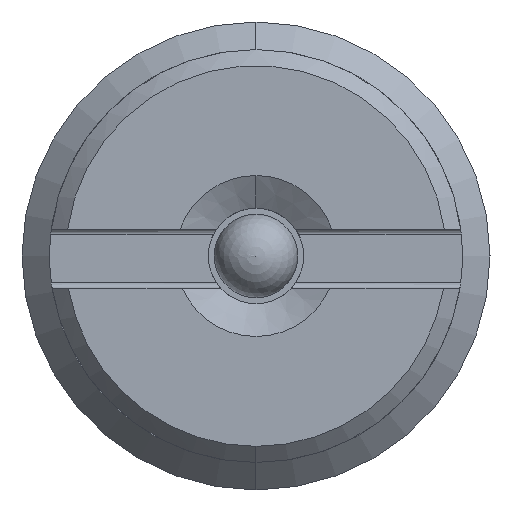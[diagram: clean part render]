
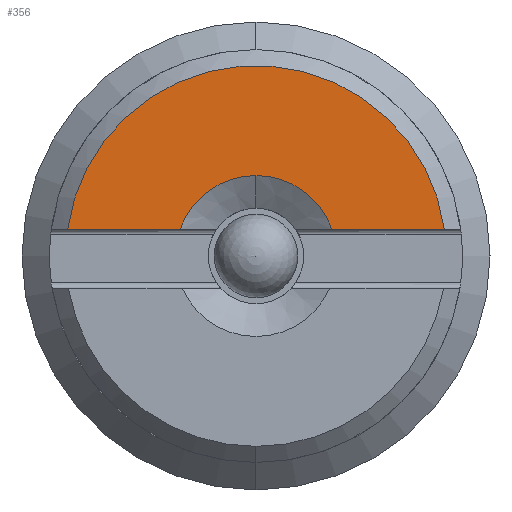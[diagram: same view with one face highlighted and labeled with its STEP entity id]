
A CAD part, left-side view. The second image highlights one B-rep face of the part: STEP entity #356.
In plain terms, the highlighted planar face has unit normal (-1, 0, 0).
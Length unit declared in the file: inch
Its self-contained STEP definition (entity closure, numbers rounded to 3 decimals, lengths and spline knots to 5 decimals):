
#3 = VERTEX_POINT ( 'NONE', #431 ) ;
#16 = EDGE_CURVE ( 'NONE', #60, #3, #402, .T. ) ;
#60 = VERTEX_POINT ( 'NONE', #815 ) ;
#72 = VERTEX_POINT ( 'NONE', #737 ) ;
#110 = ORIENTED_EDGE ( 'NONE', *, *, #16, .F. ) ;
#111 = ORIENTED_EDGE ( 'NONE', *, *, #177, .F. ) ;
#113 = EDGE_LOOP ( 'NONE', ( #359, #360, #357, #110, #111 ) ) ;
#175 = VERTEX_POINT ( 'NONE', #1090 ) ;
#177 = EDGE_CURVE ( 'NONE', #175, #60, #1084, .T. ) ;
#245 = EDGE_CURVE ( 'NONE', #384, #175, #1365, .T. ) ;
#356 = ADVANCED_FACE ( 'NONE', ( #2256 ), #2191, .F. ) ;
#357 = ORIENTED_EDGE ( 'NONE', *, *, #358, .F. ) ;
#358 = EDGE_CURVE ( 'NONE', #3, #72, #2316, .T. ) ;
#359 = ORIENTED_EDGE ( 'NONE', *, *, #245, .F. ) ;
#360 = ORIENTED_EDGE ( 'NONE', *, *, #383, .T. ) ;
#383 = EDGE_CURVE ( 'NONE', #384, #72, #2341, .T. ) ;
#384 = VERTEX_POINT ( 'NONE', #2336 ) ;
#398 = DIRECTION ( 'NONE',  ( 0., 0., 1. ) ) ;
#399 = DIRECTION ( 'NONE',  ( -1., 0., 0. ) ) ;
#400 = CARTESIAN_POINT ( 'NONE',  ( -0.897, 0., 0. ) ) ;
#401 = AXIS2_PLACEMENT_3D ( 'NONE', #400, #399, #398 ) ;
#402 = CIRCLE ( 'NONE', #401, 0.075 ) ;
#431 = CARTESIAN_POINT ( 'NONE',  ( -0.897, 0.07071, 0.025 ) ) ;
#737 = CARTESIAN_POINT ( 'NONE',  ( -0.897, 0.17573, 0.025 ) ) ;
#815 = CARTESIAN_POINT ( 'NONE',  ( -0.897, 0., 0.075 ) ) ;
#1081 = DIRECTION ( 'NONE',  ( 0., 0., 1. ) ) ;
#1082 = DIRECTION ( 'NONE',  ( -1., 0., 0. ) ) ;
#1083 = AXIS2_PLACEMENT_3D ( 'NONE', #1220, #1082, #1081 ) ;
#1084 = CIRCLE ( 'NONE', #1083, 0.075 ) ;
#1090 = CARTESIAN_POINT ( 'NONE',  ( -0.897, -0.07071, 0.025 ) ) ;
#1220 = CARTESIAN_POINT ( 'NONE',  ( -0.897, 0., 0. ) ) ;
#1362 = DIRECTION ( 'NONE',  ( 0., 1., 0. ) ) ;
#1363 = VECTOR ( 'NONE', #1362, 39.37008 ) ;
#1364 = CARTESIAN_POINT ( 'NONE',  ( -0.897, 0.19087, 0.025 ) ) ;
#1365 = LINE ( 'NONE', #1364, #1363 ) ;
#2191 = PLANE ( 'NONE',  #2320 ) ;
#2256 = FACE_OUTER_BOUND ( 'NONE', #113, .T. ) ;
#2313 = DIRECTION ( 'NONE',  ( 0., 1., 0. ) ) ;
#2314 = VECTOR ( 'NONE', #2313, 39.37008 ) ;
#2315 = CARTESIAN_POINT ( 'NONE',  ( -0.897, 0.19087, 0.025 ) ) ;
#2316 = LINE ( 'NONE', #2315, #2314 ) ;
#2317 = DIRECTION ( 'NONE',  ( 0., 0., -1. ) ) ;
#2318 = DIRECTION ( 'NONE',  ( 1., 0., 0. ) ) ;
#2319 = CARTESIAN_POINT ( 'NONE',  ( -0.897, 0., 0. ) ) ;
#2320 = AXIS2_PLACEMENT_3D ( 'NONE', #2319, #2318, #2317 ) ;
#2336 = CARTESIAN_POINT ( 'NONE',  ( -0.897, -0.17573, 0.025 ) ) ;
#2337 = DIRECTION ( 'NONE',  ( 0., 0., -1. ) ) ;
#2338 = DIRECTION ( 'NONE',  ( -1., 0., 0. ) ) ;
#2339 = CARTESIAN_POINT ( 'NONE',  ( -0.897, 0., 0. ) ) ;
#2340 = AXIS2_PLACEMENT_3D ( 'NONE', #2339, #2338, #2337 ) ;
#2341 = CIRCLE ( 'NONE', #2340, 0.1775 ) ;
